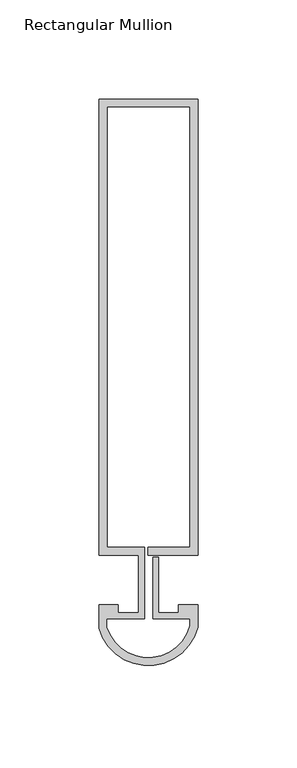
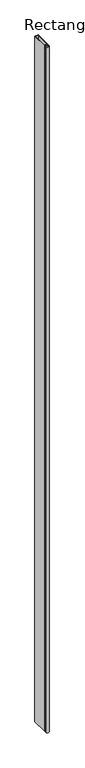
"""IFC4 building model written with IfcOpenShell, lengths in millimetres: member geometry, Rectangular Mullion : Reynaers_CW-50_Mullion-Transom_Vertical_230.5mm_Facecap-07."""

from ifc_helpers import new_model, si_unit, point, frame, frame_2d, origin, place, context, project, spatial, polyline, circle_curve, trimmed, segment, composite_curve, outline, extrude, source, transform, mapped, element, save


def rectangular_mullion_ce290009(model_context):
    return source(origin(), model_context, "Body", "SweptSolid", [
        extrude(outline(composite_curve([segment(polyline([(-24.8004059, 243.0), (25.1995941, 243.0), (25.1995941, 12.5), (0.0, 12.5), (0.0, 16.5), (21.1995941, 16.5), (21.1995941, 239.0), (-20.8004059, 239.0), (-20.8004059, 16.5), (-1.9004059, 16.5), (-1.9004059, -19.5), (-20.994845, -19.5), (-20.994845, -23.684232)]), True, "CONTINUOUS"), segment(trimmed(circle_curve(frame_2d((0.0217873, -17.1383151)), 22.0124479), [point((-20.994845, -23.684232))], [point((21.1995941, -23.1423436))], True, "CARTESIAN"), True, "CONTINUOUS"), segment(polyline([(21.1995941, -23.1423436), (21.1995941, -19.5), (2.2995941, -19.5), (2.2995941, 11.5), (5.2995941, 11.5), (5.2995941, -16.5), (15.2996495, -16.5), (15.2996495, -12.5), (25.1995941, -12.5), (25.1995941, -23.6747887)]), True, "CONTINUOUS"), segment(trimmed(circle_curve(frame_2d((0.0217873, -17.1383151)), 26.0124479), [point((25.1995941, -23.6747887))], [point((-24.994845, -24.2668179))], False, "CARTESIAN"), True, "CONTINUOUS"), segment(polyline([(-24.994845, -24.2668179), (-24.994845, -12.5), (-15.2996495, -12.5), (-15.2996495, -16.5), (-4.9004059, -16.5), (-4.9004059, 12.5), (-24.8004059, 12.5), (-24.8004059, 243.0)]), True, "CONTINUOUS")], self_intersect=False)), frame((0.0, 0.0, -10400.0), z_axis=(0.0, 0.0, 1.0), x_axis=(1.0, 0.0, 0.0)), (0.0, 0.0, 1.0), 10400.0),
    ])


if __name__ == "__main__":
    model = new_model("IFC4")
    model_context = context("Model", 3, world=origin())
    ifc_project = project(units=[si_unit("LENGTHUNIT", "METRE", prefix="MILLI")], contexts=[model_context])
    site = spatial("IfcSite", under=ifc_project)
    building = spatial("IfcBuilding", under=site)
    placement = place(None, origin())
    rectangular_mullion_shape = rectangular_mullion_ce290009(model_context)
    element("IfcMember", 1, ObjectType="Rectangular Mullion : Reynaers_CW-50_Mullion-Transom_Vertical_230.5mm_Facecap-07", at=placement, inside=building, context=model_context, shape_type="MappedRepresentation", body=[
        mapped(rectangular_mullion_shape, transform((0.0, 0.0, 0.0), x_axis=(1.0, 0.0, 0.0), y_axis=(0.0, 1.0, 0.0), z_axis=(0.0, 0.0, 1.0))),
    ])
    save(model, "model.ifc")
